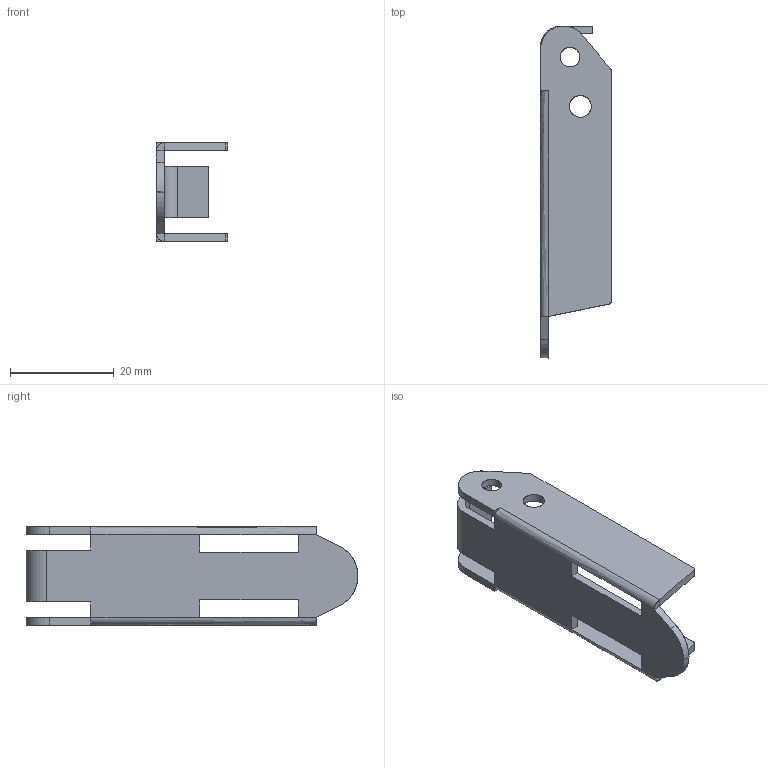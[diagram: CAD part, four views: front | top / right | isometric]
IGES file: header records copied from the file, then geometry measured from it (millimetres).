
Start section: SolidWorks IGES FILE using analytic representation for surfaces
Global section: file name: C:\Documents and Settings\brechard\Bureau\GE 576\546.010.00.IGS; native system: SolidWorks 2001Plus by SolidWorks Corporation; preprocessor: Version 5.3; author: brechard; date: 050126.095804; units: millimetre
Bounding box: 13.7 x 64 x 19 mm (x, y, z)
Surface area: 5013 mm2 (no closed solid volume)
Topology: 0 solids, 0 shells, 55 faces, 710 edges, 710 vertices
Faces by surface type: bspline 35, revolution 20
